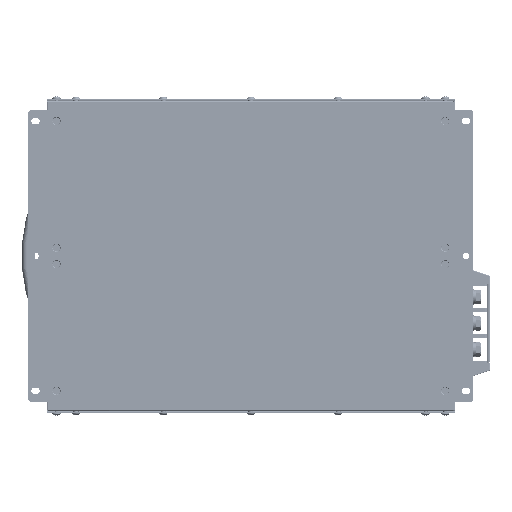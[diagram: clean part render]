
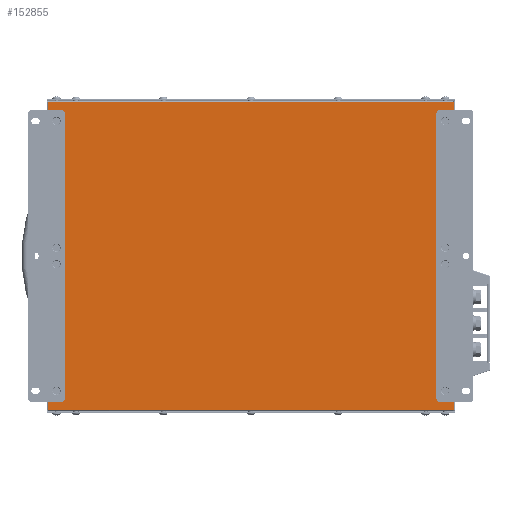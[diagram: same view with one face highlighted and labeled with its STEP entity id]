
A CAD part, front view. The second image highlights one B-rep face of the part: STEP entity #152855.
In plain terms, the highlighted planar face has unit normal (0, -1, 0).
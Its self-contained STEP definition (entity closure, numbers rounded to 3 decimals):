
#8162=CIRCLE('',#162182,4.);
#8163=CIRCLE('',#162183,4.);
#8164=CIRCLE('',#162184,4.);
#8165=CIRCLE('',#162185,4.);
#17215=FACE_OUTER_BOUND('',#25919,.T.);
#25919=EDGE_LOOP('',(#112858,#112859,#112860,#112861,#112862,#112863,#112864,
#112865,#112866,#112867,#112868,#112869,#112870,#112871,#112872,#112873));
#37922=LINE('',#241513,#50974);
#37951=LINE('',#241741,#51003);
#37973=LINE('',#241923,#51025);
#37975=LINE('',#241926,#51027);
#37977=LINE('',#241930,#51029);
#37978=LINE('',#241932,#51030);
#37979=LINE('',#241934,#51031);
#37980=LINE('',#241938,#51032);
#37981=LINE('',#241942,#51033);
#37982=LINE('',#241943,#51034);
#37983=LINE('',#241945,#51035);
#37984=LINE('',#241949,#51036);
#50974=VECTOR('',#186161,10.);
#51003=VECTOR('',#186238,10.);
#51025=VECTOR('',#186318,10.);
#51027=VECTOR('',#186320,10.);
#51029=VECTOR('',#186324,10.);
#51030=VECTOR('',#186325,10.);
#51031=VECTOR('',#186326,10.);
#51032=VECTOR('',#186329,10.);
#51033=VECTOR('',#186332,10.);
#51034=VECTOR('',#186333,10.);
#51035=VECTOR('',#186334,10.);
#51036=VECTOR('',#186337,10.);
#64063=VERTEX_POINT('',#241504);
#64064=VERTEX_POINT('',#241512);
#64092=VERTEX_POINT('',#241732);
#64093=VERTEX_POINT('',#241740);
#64116=VERTEX_POINT('',#241922);
#64117=VERTEX_POINT('',#241924);
#64118=VERTEX_POINT('',#241929);
#64119=VERTEX_POINT('',#241931);
#64120=VERTEX_POINT('',#241933);
#64121=VERTEX_POINT('',#241935);
#64122=VERTEX_POINT('',#241937);
#64123=VERTEX_POINT('',#241939);
#64124=VERTEX_POINT('',#241941);
#64125=VERTEX_POINT('',#241944);
#64126=VERTEX_POINT('',#241946);
#64127=VERTEX_POINT('',#241948);
#81578=EDGE_CURVE('',#64064,#64063,#37922,.T.);
#81627=EDGE_CURVE('',#64093,#64092,#37951,.T.);
#81672=EDGE_CURVE('',#64116,#64064,#37973,.T.);
#81674=EDGE_CURVE('',#64092,#64117,#37975,.T.);
#81676=EDGE_CURVE('',#64118,#64116,#37977,.T.);
#81677=EDGE_CURVE('',#64063,#64119,#37978,.T.);
#81678=EDGE_CURVE('',#64119,#64120,#37979,.T.);
#81679=EDGE_CURVE('',#64120,#64121,#8162,.T.);
#81680=EDGE_CURVE('',#64121,#64122,#37980,.T.);
#81681=EDGE_CURVE('',#64122,#64123,#8163,.T.);
#81682=EDGE_CURVE('',#64123,#64124,#37981,.T.);
#81683=EDGE_CURVE('',#64124,#64093,#37982,.T.);
#81684=EDGE_CURVE('',#64117,#64125,#37983,.T.);
#81685=EDGE_CURVE('',#64125,#64126,#8164,.T.);
#81686=EDGE_CURVE('',#64126,#64127,#37984,.T.);
#81687=EDGE_CURVE('',#64127,#64118,#8165,.T.);
#112858=ORIENTED_EDGE('',*,*,#81676,.T.);
#112859=ORIENTED_EDGE('',*,*,#81672,.T.);
#112860=ORIENTED_EDGE('',*,*,#81578,.T.);
#112861=ORIENTED_EDGE('',*,*,#81677,.T.);
#112862=ORIENTED_EDGE('',*,*,#81678,.T.);
#112863=ORIENTED_EDGE('',*,*,#81679,.T.);
#112864=ORIENTED_EDGE('',*,*,#81680,.T.);
#112865=ORIENTED_EDGE('',*,*,#81681,.T.);
#112866=ORIENTED_EDGE('',*,*,#81682,.T.);
#112867=ORIENTED_EDGE('',*,*,#81683,.T.);
#112868=ORIENTED_EDGE('',*,*,#81627,.T.);
#112869=ORIENTED_EDGE('',*,*,#81674,.T.);
#112870=ORIENTED_EDGE('',*,*,#81684,.T.);
#112871=ORIENTED_EDGE('',*,*,#81685,.T.);
#112872=ORIENTED_EDGE('',*,*,#81686,.T.);
#112873=ORIENTED_EDGE('',*,*,#81687,.T.);
#138520=PLANE('',#162181);
#152855=ADVANCED_FACE('',(#17215),#138520,.F.);
#162181=AXIS2_PLACEMENT_3D('',#241928,#186322,#186323);
#162182=AXIS2_PLACEMENT_3D('',#241936,#186327,#186328);
#162183=AXIS2_PLACEMENT_3D('',#241940,#186330,#186331);
#162184=AXIS2_PLACEMENT_3D('',#241947,#186335,#186336);
#162185=AXIS2_PLACEMENT_3D('',#241950,#186338,#186339);
#186161=DIRECTION('',(1.,0.,0.));
#186238=DIRECTION('',(-1.,0.,0.));
#186318=DIRECTION('',(0.,0.,-1.));
#186320=DIRECTION('',(0.,0.,-1.));
#186322=DIRECTION('center_axis',(0.,1.,0.));
#186323=DIRECTION('ref_axis',(0.,0.,1.));
#186324=DIRECTION('',(-1.,0.,0.));
#186325=DIRECTION('',(0.,0.,1.));
#186326=DIRECTION('',(-1.,0.,0.));
#186327=DIRECTION('center_axis',(0.,1.,0.));
#186328=DIRECTION('ref_axis',(-1.,0.,0.));
#186329=DIRECTION('',(0.,0.,1.));
#186330=DIRECTION('center_axis',(0.,1.,0.));
#186331=DIRECTION('ref_axis',(0.,0.,1.));
#186332=DIRECTION('',(1.,0.,0.));
#186333=DIRECTION('',(0.,0.,1.));
#186334=DIRECTION('',(1.,0.,0.));
#186335=DIRECTION('center_axis',(0.,1.,0.));
#186336=DIRECTION('ref_axis',(1.,0.,0.));
#186337=DIRECTION('',(0.,0.,-1.));
#186338=DIRECTION('center_axis',(0.,1.,0.));
#186339=DIRECTION('ref_axis',(0.,0.,-1.));
#241504=CARTESIAN_POINT('',(-3.613,0.,-319.602));
#241512=CARTESIAN_POINT('',(-419.813,0.,-319.602));
#241513=CARTESIAN_POINT('',(-315.763,0.,-319.602));
#241732=CARTESIAN_POINT('',(-419.813,0.,-4.202));
#241740=CARTESIAN_POINT('',(-3.613,0.,-4.202));
#241741=CARTESIAN_POINT('',(-107.663,0.,-4.202));
#241922=CARTESIAN_POINT('',(-419.813,0.,-311.902));
#241923=CARTESIAN_POINT('',(-419.813,0.,-82.352));
#241924=CARTESIAN_POINT('',(-419.813,0.,-11.902));
#241926=CARTESIAN_POINT('',(-419.813,0.,-82.352));
#241928=CARTESIAN_POINT('Origin',(-211.713,0.,-161.902));
#241929=CARTESIAN_POINT('',(-406.213,0.,-311.902));
#241930=CARTESIAN_POINT('',(-323.963,0.,-311.902));
#241931=CARTESIAN_POINT('',(-3.613,0.,-311.902));
#241932=CARTESIAN_POINT('',(-3.613,0.,-241.452));
#241933=CARTESIAN_POINT('',(-17.213,0.,-311.902));
#241934=CARTESIAN_POINT('',(-114.463,0.,-311.902));
#241935=CARTESIAN_POINT('',(-21.213,0.,-307.902));
#241936=CARTESIAN_POINT('Origin',(-17.213,0.,-307.902));
#241937=CARTESIAN_POINT('',(-21.213,0.,-15.902));
#241938=CARTESIAN_POINT('',(-21.213,0.,-88.902));
#241939=CARTESIAN_POINT('',(-17.213,0.,-11.902));
#241940=CARTESIAN_POINT('Origin',(-17.213,0.,-15.902));
#241941=CARTESIAN_POINT('',(-3.613,0.,-11.902));
#241942=CARTESIAN_POINT('',(-99.463,0.,-11.902));
#241943=CARTESIAN_POINT('',(-3.613,0.,-241.452));
#241944=CARTESIAN_POINT('',(-406.213,0.,-11.902));
#241945=CARTESIAN_POINT('',(-308.963,0.,-11.902));
#241946=CARTESIAN_POINT('',(-402.213,0.,-15.902));
#241947=CARTESIAN_POINT('Origin',(-406.213,0.,-15.902));
#241948=CARTESIAN_POINT('',(-402.213,0.,-307.902));
#241949=CARTESIAN_POINT('',(-402.213,0.,-234.902));
#241950=CARTESIAN_POINT('Origin',(-406.213,0.,-307.902));
